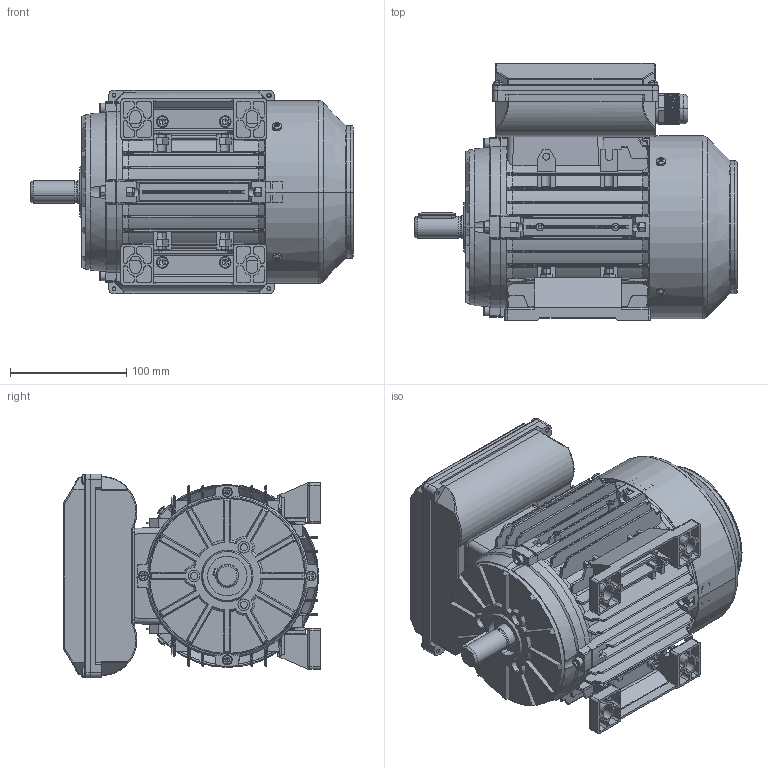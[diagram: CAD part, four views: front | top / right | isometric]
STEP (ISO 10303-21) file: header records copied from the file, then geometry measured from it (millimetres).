
FILE_DESCRIPTION (( 'STEP AP203' ), '1' );
FILE_NAME ('ML2 80 B3(臏諉盄碟).STEP', '2024-01-22T07:36:58', ( '' ), ( '' ), 'SwSTEP 2.0', 'SolidWorks 2016', '' );
FILE_SCHEMA (( 'CONFIG_CONTROL_DESIGN' ));
Length unit declared in the file: millimetre
Products named in the file (19): ML80-90铝接线盒组合II（加长）; 瑞珔; TA80蛌粣; T80儂褲; ML2 80 B3(臏諉盄碟); hexagon nuts grade c gb_GB_FASTENER_NUT_SNC1 M5-N; TA80瑞欶; TA80綴傷裔1; T80菁褐; ML80-ML90諉盄碟釱(樓酗)(臏II); hexagon nuts grade c gb_GB_FASTENER_NUT_SNC1 M6-N; hexagon socket head cap screws gb_GB_FASTENER_SCREWS_HSHCS M6X20-N; hexagon socket head cap screws gb_GB_FASTENER_SCREWS_HSHCS M5X25-N; ML80-ML90諉盄碟裔(樓酗)(臏II); cross recessed thread forming screws gb_GB_CROSS_SCREWS_TYPE138 M4X8X6.6-N; 80-100堤盄蹟杶; cross recessed thread forming screws gb_GB_CROSS_SCREWS_TYPE138 M4X12-N; TA80ヶ傷裔1; plain parallel keys_GB_CONNECTING_PIECE_KEYS_CSK 6X32
Assembly tree (45 placements, depth 3):
  ML2 80 B3(臏諉盄碟)
    T80儂褲
    T80菁褐  x2
    TA80瑞欶
    TA80蛌粣
    TA80綴傷裔1
    瑞珔
    hexagon socket head cap screws gb_GB_FASTENER_SCREWS_HSHCS M5X25-N  x8
    hexagon nuts grade c gb_GB_FASTENER_NUT_SNC1 M5-N  x8
    cross recessed thread forming screws gb_GB_CROSS_SCREWS_TYPE138 M4X12-N  x4
    plain parallel keys_GB_CONNECTING_PIECE_KEYS_CSK 6X32
    hexagon socket head cap screws gb_GB_FASTENER_SCREWS_HSHCS M6X20-N  x4
    hexagon nuts grade c gb_GB_FASTENER_NUT_SNC1 M6-N  x4
    TA80ヶ傷裔1
    ML80-90铝接线盒组合II（加长）
      ML80-ML90諉盄碟釱(樓酗)(臏II)
      ML80-ML90諉盄碟裔(樓酗)(臏II)
      cross recessed thread forming screws gb_GB_CROSS_SCREWS_TYPE138 M4X8X6.6-N  x4
      80-100堤盄蹟杶
Bounding box: 277 x 220.5 x 175 mm (x, y, z)
Volume: 988480.2 mm3; surface area: 704894.5 mm2
Topology: 44 solids, 44 shells, 4246 faces, 11016 edges, 6917 vertices
Faces by surface type: plane 2302, cylinder 1072, cone 333, bspline 242, torus 165, sphere 132
Entity records: 120944 total; most frequent: CARTESIAN_POINT 33327, ORIENTED_EDGE 18558, DIRECTION 16581, EDGE_CURVE 9279, VERTEX_POINT 5869, AXIS2_PLACEMENT_3D 5640, VECTOR 5301, LINE 5301
